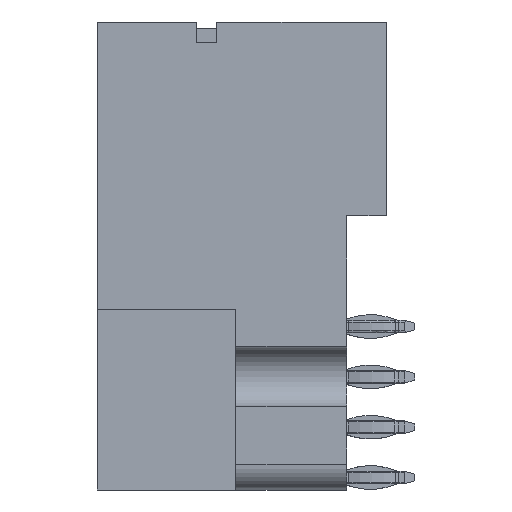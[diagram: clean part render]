
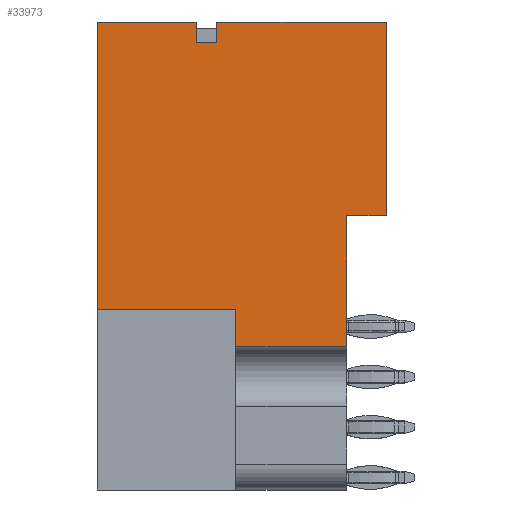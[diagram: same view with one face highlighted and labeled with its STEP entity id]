
A CAD part, left-side view. The second image highlights one B-rep face of the part: STEP entity #33973.
In plain terms, the highlighted planar face has unit normal (-1, 0, 0).
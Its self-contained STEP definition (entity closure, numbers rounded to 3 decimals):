
#1402 = DIRECTION ( 'NONE',  ( 0., 1., 0. ) ) ;
#1403 = CARTESIAN_POINT ( 'NONE',  ( -44.389, 17.307, 2.03 ) ) ;
#1405 = LINE ( 'NONE', #1403, #43842 ) ;
#1488 = DIRECTION ( 'NONE',  ( 0., 0., -1. ) ) ;
#1490 = CARTESIAN_POINT ( 'NONE',  ( -44.389, 17.307, 11.81 ) ) ;
#1494 = DIRECTION ( 'NONE',  ( 0., -1., 0. ) ) ;
#1496 = CARTESIAN_POINT ( 'NONE',  ( -44.389, 17.307, 10.79 ) ) ;
#1498 = LINE ( 'NONE', #1490, #43815 ) ;
#1505 = LINE ( 'NONE', #1496, #43813 ) ;
#1522 = DIRECTION ( 'NONE',  ( 0., 0., -1. ) ) ;
#1523 = CARTESIAN_POINT ( 'NONE',  ( -44.389, 4.737, 11.81 ) ) ;
#1524 = LINE ( 'NONE', #1523, #43808 ) ;
#1648 = DIRECTION ( 'NONE',  ( 0., -1., 0. ) ) ;
#1649 = CARTESIAN_POINT ( 'NONE',  ( -44.389, 17.307, 11.81 ) ) ;
#1657 = LINE ( 'NONE', #1649, #43765 ) ;
#2217 = LINE ( 'NONE', #2219, #78634 ) ;
#2219 = CARTESIAN_POINT ( 'NONE',  ( -44.389, 10.327, 11.81 ) ) ;
#2221 = DIRECTION ( 'NONE',  ( 0., 0., 1. ) ) ;
#2494 = CARTESIAN_POINT ( 'NONE',  ( -44.389, 2.727, 2.03 ) ) ;
#2966 = LINE ( 'NONE', #2967, #78790 ) ;
#2967 = CARTESIAN_POINT ( 'NONE',  ( -44.389, 2.727, 11.81 ) ) ;
#2968 = DIRECTION ( 'NONE',  ( 0., 0., -1. ) ) ;
#5805 = EDGE_LOOP ( 'NONE', ( #70971, #78053, #70098, #70463, #70082, #72544, #71684, #70549, #71504, #71523, #70707, #70700 ) ) ;
#12263 = VERTEX_POINT ( 'NONE', #2494 ) ;
#18535 = EDGE_CURVE ( 'NONE', #28426, #68178, #1657, .T. ) ;
#18656 = EDGE_CURVE ( 'NONE', #27950, #74070, #1524, .T. ) ;
#18679 = EDGE_CURVE ( 'NONE', #75404, #74051, #1505, .T. ) ;
#18686 = EDGE_CURVE ( 'NONE', #28426, #27900, #1498, .T. ) ;
#18792 = EDGE_CURVE ( 'NONE', #12263, #27950, #1405, .T. ) ;
#20071 = EDGE_CURVE ( 'NONE', #27900, #75393, #37347, .T. ) ;
#27900 = VERTEX_POINT ( 'NONE', #45583 ) ;
#27950 = VERTEX_POINT ( 'NONE', #45674 ) ;
#28426 = VERTEX_POINT ( 'NONE', #46421 ) ;
#32518 = VECTOR ( 'NONE', #55533, 1000. ) ;
#33973 = ADVANCED_FACE ( 'NONE', ( #53184 ), #53165, .F. ) ;
#35502 = EDGE_CURVE ( 'NONE', #74070, #73227, #55527, .T. ) ;
#35832 = EDGE_CURVE ( 'NONE', #68268, #74086, #62163, .T. ) ;
#37347 = LINE ( 'NONE', #37350, #41842 ) ;
#37350 = CARTESIAN_POINT ( 'NONE',  ( -44.389, 10.317, -2.72 ) ) ;
#37375 = DIRECTION ( 'NONE',  ( 0., -1., 0. ) ) ;
#41242 = AXIS2_PLACEMENT_3D ( 'NONE', #53197, #53198, #53199 ) ;
#41842 = VECTOR ( 'NONE', #37375, 1000. ) ;
#43765 = VECTOR ( 'NONE', #1648, 1000. ) ;
#43808 = VECTOR ( 'NONE', #1522, 1000. ) ;
#43813 = VECTOR ( 'NONE', #1494, 1000. ) ;
#43815 = VECTOR ( 'NONE', #1488, 1000. ) ;
#43842 = VECTOR ( 'NONE', #1402, 1000. ) ;
#44197 = EDGE_CURVE ( 'NONE', #74051, #68268, #69159, .T. ) ;
#45060 = EDGE_CURVE ( 'NONE', #68178, #75404, #79668, .T. ) ;
#45573 = EDGE_CURVE ( 'NONE', #73227, #75393, #2217, .T. ) ;
#45583 = CARTESIAN_POINT ( 'NONE',  ( -44.389, 17.307, -2.72 ) ) ;
#45674 = CARTESIAN_POINT ( 'NONE',  ( -44.389, 4.737, 2.03 ) ) ;
#46136 = EDGE_CURVE ( 'NONE', #74086, #12263, #2966, .T. ) ;
#46421 = CARTESIAN_POINT ( 'NONE',  ( -44.389, 17.307, 11.81 ) ) ;
#53165 = PLANE ( 'NONE',  #41242 ) ;
#53184 = FACE_OUTER_BOUND ( 'NONE', #5805, .T. ) ;
#53197 = CARTESIAN_POINT ( 'NONE',  ( -44.389, 17.307, 11.81 ) ) ;
#53198 = DIRECTION ( 'NONE',  ( 1., 0., 0. ) ) ;
#53199 = DIRECTION ( 'NONE',  ( 0., 0., -1. ) ) ;
#55527 = LINE ( 'NONE', #55531, #32518 ) ;
#55531 = CARTESIAN_POINT ( 'NONE',  ( -44.389, 17.307, -4.565 ) ) ;
#55533 = DIRECTION ( 'NONE',  ( 0., 1., 0. ) ) ;
#62163 = LINE ( 'NONE', #62165, #62312 ) ;
#62165 = CARTESIAN_POINT ( 'NONE',  ( -44.389, 17.307, 11.81 ) ) ;
#62166 = DIRECTION ( 'NONE',  ( 0., -1., 0. ) ) ;
#62312 = VECTOR ( 'NONE', #62166, 1000. ) ;
#68178 = VERTEX_POINT ( 'NONE', #71104 ) ;
#68268 = VERTEX_POINT ( 'NONE', #71194 ) ;
#69159 = LINE ( 'NONE', #69160, #78180 ) ;
#69160 = CARTESIAN_POINT ( 'NONE',  ( -44.389, 11.287, 11.81 ) ) ;
#69161 = DIRECTION ( 'NONE',  ( 0., 0., 1. ) ) ;
#70082 = ORIENTED_EDGE ( 'NONE', *, *, #18792, .F. ) ;
#70098 = ORIENTED_EDGE ( 'NONE', *, *, #35502, .F. ) ;
#70463 = ORIENTED_EDGE ( 'NONE', *, *, #18656, .F. ) ;
#70549 = ORIENTED_EDGE ( 'NONE', *, *, #44197, .F. ) ;
#70700 = ORIENTED_EDGE ( 'NONE', *, *, #18686, .T. ) ;
#70707 = ORIENTED_EDGE ( 'NONE', *, *, #18535, .F. ) ;
#70971 = ORIENTED_EDGE ( 'NONE', *, *, #20071, .T. ) ;
#71104 = CARTESIAN_POINT ( 'NONE',  ( -44.389, 12.307, 11.81 ) ) ;
#71194 = CARTESIAN_POINT ( 'NONE',  ( -44.389, 11.287, 11.81 ) ) ;
#71504 = ORIENTED_EDGE ( 'NONE', *, *, #18679, .F. ) ;
#71523 = ORIENTED_EDGE ( 'NONE', *, *, #45060, .F. ) ;
#71684 = ORIENTED_EDGE ( 'NONE', *, *, #35832, .F. ) ;
#72544 = ORIENTED_EDGE ( 'NONE', *, *, #46136, .F. ) ;
#73227 = VERTEX_POINT ( 'NONE', #77544 ) ;
#74051 = VERTEX_POINT ( 'NONE', #77587 ) ;
#74070 = VERTEX_POINT ( 'NONE', #77606 ) ;
#74086 = VERTEX_POINT ( 'NONE', #77622 ) ;
#75393 = VERTEX_POINT ( 'NONE', #77905 ) ;
#75404 = VERTEX_POINT ( 'NONE', #77918 ) ;
#77544 = CARTESIAN_POINT ( 'NONE',  ( -44.389, 10.327, -4.565 ) ) ;
#77587 = CARTESIAN_POINT ( 'NONE',  ( -44.389, 11.287, 10.79 ) ) ;
#77606 = CARTESIAN_POINT ( 'NONE',  ( -44.389, 4.737, -4.565 ) ) ;
#77622 = CARTESIAN_POINT ( 'NONE',  ( -44.389, 2.727, 11.81 ) ) ;
#77905 = CARTESIAN_POINT ( 'NONE',  ( -44.389, 10.327, -2.72 ) ) ;
#77918 = CARTESIAN_POINT ( 'NONE',  ( -44.389, 12.307, 10.79 ) ) ;
#78053 = ORIENTED_EDGE ( 'NONE', *, *, #45573, .F. ) ;
#78180 = VECTOR ( 'NONE', #69161, 1000. ) ;
#78519 = VECTOR ( 'NONE', #79670, 1000. ) ;
#78634 = VECTOR ( 'NONE', #2221, 1000. ) ;
#78790 = VECTOR ( 'NONE', #2968, 1000. ) ;
#79668 = LINE ( 'NONE', #79669, #78519 ) ;
#79669 = CARTESIAN_POINT ( 'NONE',  ( -44.389, 12.307, 11.81 ) ) ;
#79670 = DIRECTION ( 'NONE',  ( 0., 0., -1. ) ) ;
